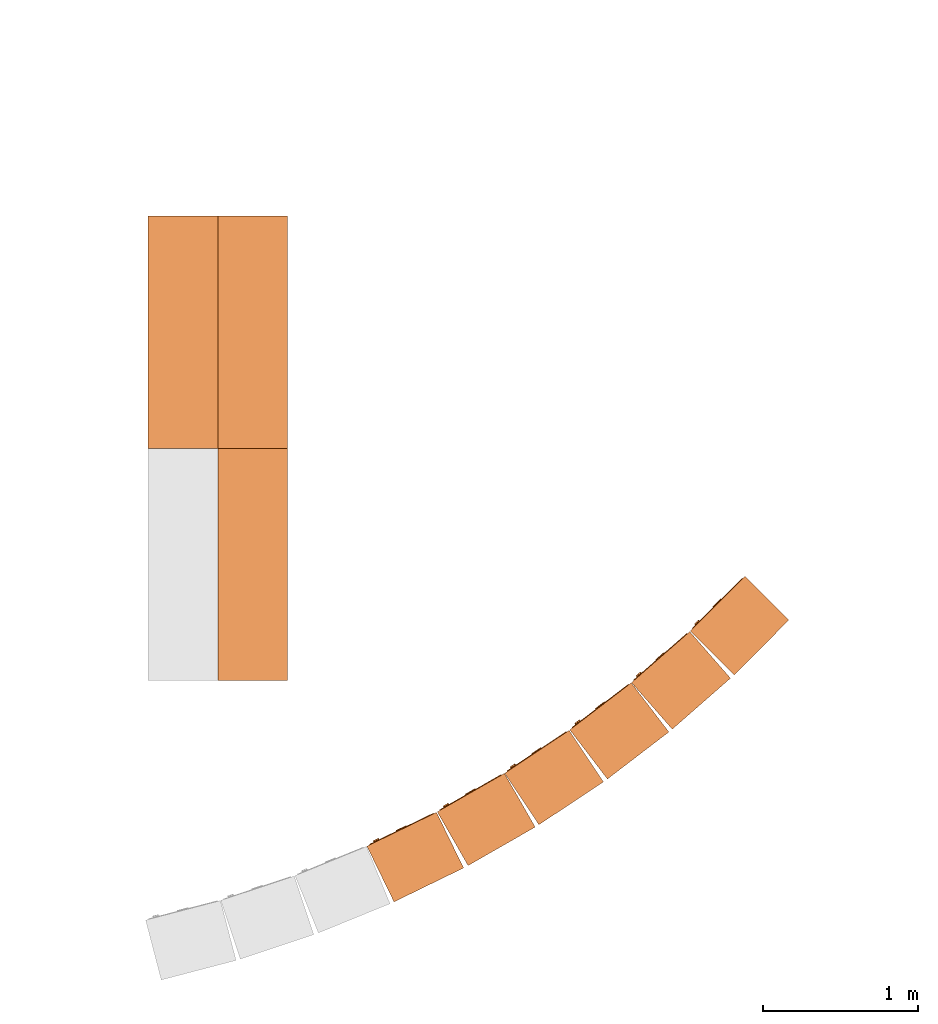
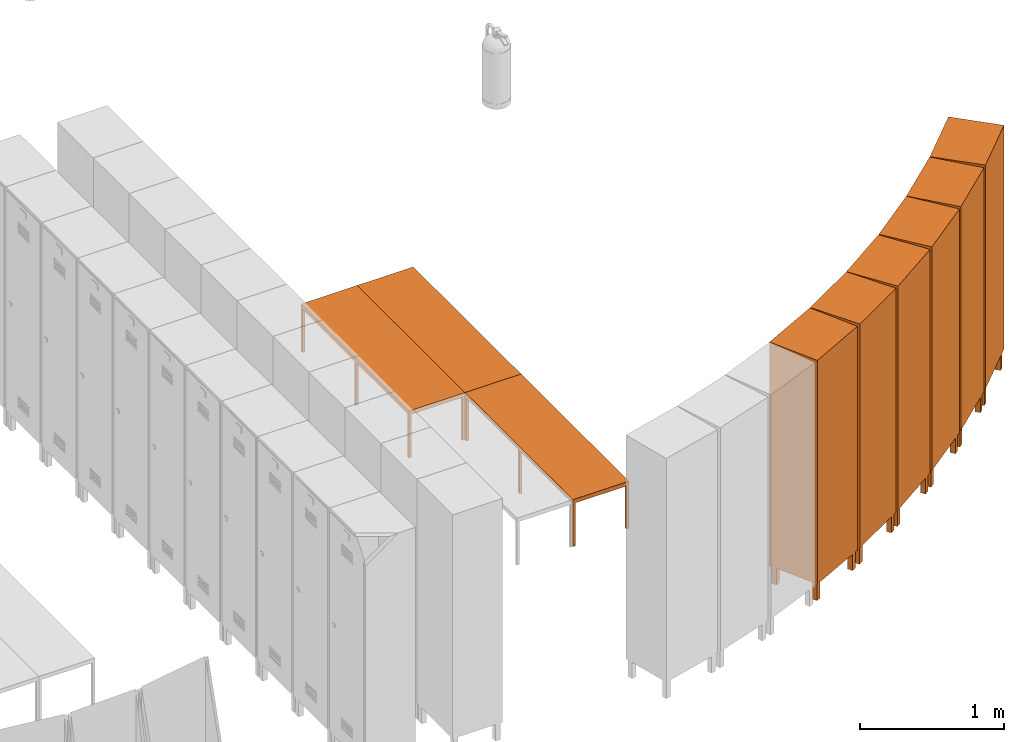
# One storey, part 6 of 7: 9 proxies.
"""IFC4 building model written with IfcOpenShell, lengths in millimetres."""

from ifc_helpers import new_model, entity, si_unit, converted_unit, derived_unit, direction, frame, origin_with_axes, place, context, subcontext, project, spatial, polygons, source, transform, mapped, type_object, element, save


model = new_model("IFC4")

# Units and contexts
model_context = context("Model", 3, precision=0.01, world=origin_with_axes(), true_north=direction((0.0, 1.0)))
body_context = subcontext(model_context, "Body", "Model", "MODEL_VIEW")
ifc_project = project(units=[si_unit("LENGTHUNIT", "METRE", prefix="MILLI"), si_unit("AREAUNIT", "SQUARE_METRE"), si_unit("VOLUMEUNIT", "CUBIC_METRE"), converted_unit("PLANEANGLEUNIT", "DEGREE", entity("IfcPlaneAngleMeasure", 0.0174532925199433), si_unit("PLANEANGLEUNIT", "RADIAN"), dimensions=[0, 0, 0, 0, 0, 0, 0]), converted_unit("TIMEUNIT", "Year", entity("IfcTimeMeasure", 31557600.0), si_unit("TIMEUNIT", "SECOND"), dimensions=[0, 0, 1, 0, 0, 0, 0]), si_unit("MASSUNIT", "GRAM", prefix="KILO"), si_unit("THERMODYNAMICTEMPERATUREUNIT", "DEGREE_CELSIUS"), si_unit("LUMINOUSINTENSITYUNIT", "LUMEN"), si_unit("ENERGYUNIT", "JOULE", prefix="MEGA"), derived_unit("THERMALCONDUCTANCEUNIT", [(si_unit("POWERUNIT", "WATT"), 1), (si_unit("LENGTHUNIT", "METRE"), -1), (si_unit("THERMODYNAMICTEMPERATUREUNIT", "KELVIN"), -1)]), derived_unit("SPECIFICHEATCAPACITYUNIT", [(si_unit("ENERGYUNIT", "JOULE"), 1), (si_unit("MASSUNIT", "GRAM", prefix="KILO"), -1), (si_unit("THERMODYNAMICTEMPERATUREUNIT", "KELVIN"), -1)]), derived_unit("MASSDENSITYUNIT", [(si_unit("MASSUNIT", "GRAM", prefix="KILO"), 1), (si_unit("VOLUMEUNIT", "CUBIC_METRE"), -1)])], contexts=[model_context])

# Site, building, storey
site_placement = place(None, origin_with_axes())
site = spatial("IfcSite", under=ifc_project, at=site_placement, Name="Exteriér", CompositionType="ELEMENT")
building_placement = place(site_placement, origin_with_axes())
building = spatial("IfcBuilding", under=site, at=building_placement, Name="Univerzitní lezecké centrum", CompositionType="ELEMENT")
storey_placement = place(building_placement, frame((0.0, 0.0, -3350.0), z_axis=(0.0, 0.0, 1.0), x_axis=(1.0, 0.0, 0.0)))
storey = spatial("IfcBuildingStorey", under=building, at=storey_placement, Name="1.PP", CompositionType="ELEMENT", Elevation=-3350.0)

# Proxies
building_element_proxy_type_1 = type_object("IfcBuildingElementProxyType", Name="Skříňky 24", PredefinedType="NOTDEFINED")
shared_shape_1 = source(origin_with_axes(), body_context, "Body", "Tessellation", [
    polygons([(-9.999999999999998, 9.999999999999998, 0.0), (-9.999999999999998, 9.999999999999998, 150.0), (-50.0, 9.999999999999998, 150.0), (-50.0, 9.999999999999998, 0.0), (-9.999999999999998, 50.0, 0.0), (-9.999999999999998, 50.0, 150.0), (-50.0, 50.0, 150.0), (-50.0, 50.0, 0.0)], [[[1, 2, 3, 4]], [[5, 6, 2, 1]], [[2, 6, 7, 3]], [[4, 3, 7, 8]], [[1, 4, 8, 5]], [[8, 7, 6, 5]]], closed=True),
    polygons([(-449.9999999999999, 9.999999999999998, 0.0), (-449.9999999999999, 9.999999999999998, 150.0), (-490.0, 9.999999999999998, 150.0), (-490.0, 9.999999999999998, 0.0), (-449.9999999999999, 50.0, 0.0), (-449.9999999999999, 50.0, 150.0), (-490.0, 50.0, 150.0), (-490.0, 50.0, 0.0)], [[[1, 2, 3, 4]], [[5, 6, 2, 1]], [[2, 6, 7, 3]], [[4, 3, 7, 8]], [[1, 4, 8, 5]], [[8, 7, 6, 5]]], closed=True),
    polygons([(-9.999999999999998, 350.0, 0.0), (-9.999999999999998, 350.0, 150.0), (-50.0, 350.0, 150.0), (-50.0, 350.0, 0.0), (-9.999999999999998, 390.0, 0.0), (-9.999999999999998, 390.0, 150.0), (-50.0, 390.0, 150.0), (-50.0, 390.0, 0.0)], [[[1, 2, 3, 4]], [[5, 6, 2, 1]], [[2, 6, 7, 3]], [[4, 3, 7, 8]], [[1, 4, 8, 5]], [[8, 7, 6, 5]]], closed=True),
    polygons([(-449.9999999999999, 350.0, 0.0), (-449.9999999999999, 350.0, 150.0), (-490.0, 350.0, 150.0), (-490.0, 350.0, 0.0), (-449.9999999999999, 390.0, 0.0), (-449.9999999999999, 390.0, 150.0), (-490.0, 390.0, 150.0), (-490.0, 390.0, 0.0)], [[[1, 2, 3, 4]], [[5, 6, 2, 1]], [[2, 6, 7, 3]], [[4, 3, 7, 8]], [[1, 4, 8, 5]], [[8, 7, 6, 5]]], closed=True),
    polygons([(0.0, 0.0, 150.0), (0.0, 380.0, 150.0), (0.0, 379.9999999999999, 2050.0), (0.0, 0.0, 2050.0), (-500.0, 0.0, 150.0), (-500.0, 380.0, 150.0), (-500.0, 379.9999999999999, 2050.0), (-20.0, 380.0, 170.0), (-20.0, 379.9999999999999, 2030.0), (-480.0, 379.9999999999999, 2030.0), (-480.0, 380.0, 170.0), (-500.0, 0.0, 2050.0), (-20.0, 0.0, 170.0), (-480.0, 0.0, 170.0), (-480.0, 0.0, 2030.0), (-20.0, 0.0, 2030.0)], [[[1, 2, 3, 4]], [[5, 6, 2, 1]], [[2, 6, 7, 3], [8, 9, 10, 11]], [[4, 3, 7, 12]], [[1, 4, 12, 5], [13, 14, 15, 16]], [[12, 7, 6, 5]], [[16, 9, 8, 13]], [[15, 10, 9, 16]], [[14, 11, 10, 15]], [[13, 8, 11, 14]]], closed=True),
    polygons([(0.0, 379.9999999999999, 2050.0), (0.0, 399.9999999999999, 2050.0), (-500.0, 399.9999999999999, 2050.0), (-500.0, 379.9999999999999, 2050.0), (0.0, 380.0, 150.0), (0.0, 400.0, 150.0), (-500.0, 400.0, 150.0), (-500.0, 380.0, 150.0)], [[[1, 2, 3, 4]], [[5, 6, 2, 1]], [[2, 6, 7, 3]], [[4, 3, 7, 8]], [[1, 4, 8, 5]], [[8, 7, 6, 5]]], closed=True),
    polygons([(-20.0, 5.0, 170.0), (-20.0, -5.0, 170.0), (-480.0000000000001, -5.0, 170.0), (-480.0000000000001, 5.0, 170.0), (-20.0, 5.000000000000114, 2030.0), (-20.0, -4.999999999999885, 2030.0), (-480.0000000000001, -4.999999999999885, 2030.0), (-175.0, -4.999999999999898, 1850.0), (-325.0000000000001, -4.999999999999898, 1850.0), (-325.0000000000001, -4.999999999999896, 1860.0), (-175.0, -4.999999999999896, 1860.0), (-175.0, -4.999999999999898, 1830.0), (-325.0000000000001, -4.999999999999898, 1830.0), (-325.0000000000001, -4.999999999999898, 1840.0), (-175.0, -4.999999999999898, 1840.0), (-175.0, -4.9999999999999, 1810.0), (-325.0000000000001, -4.9999999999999, 1810.0), (-325.0000000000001, -4.9999999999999, 1820.0), (-175.0, -4.9999999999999, 1820.0), (-175.0, -4.999999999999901, 1790.0), (-325.0000000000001, -4.999999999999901, 1790.0), (-325.0000000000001, -4.9999999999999, 1800.0), (-175.0, -4.9999999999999, 1800.0), (-175.0, -4.999999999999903, 1770.0), (-325.0000000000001, -4.999999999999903, 1770.0), (-325.0000000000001, -4.999999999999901, 1780.0), (-175.0, -4.999999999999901, 1780.0), (-175.0, -4.999999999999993, 290.0), (-325.0000000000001, -4.999999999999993, 290.0), (-325.0000000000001, -4.999999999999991, 300.0), (-175.0, -4.999999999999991, 300.0), (-175.0, -4.999999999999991, 310.0), (-325.0000000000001, -4.999999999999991, 310.0), (-325.0000000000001, -4.999999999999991, 319.9999999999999), (-175.0, -4.999999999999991, 319.9999999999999), (-175.0, -4.999999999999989, 329.9999999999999), (-325.0000000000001, -4.999999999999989, 329.9999999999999), (-325.0000000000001, -4.999999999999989, 339.9999999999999), (-175.0, -4.999999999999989, 339.9999999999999), (-175.0, -4.999999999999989, 350.0), (-325.0000000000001, -4.999999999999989, 350.0), (-325.0000000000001, -4.999999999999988, 360.0), (-175.0, -4.999999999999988, 360.0), (-175.0, -4.999999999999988, 370.0), (-325.0000000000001, -4.999999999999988, 370.0), (-325.0000000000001, -4.999999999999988, 380.0), (-175.0, -4.999999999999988, 380.0), (-480.0000000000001, 5.000000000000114, 2030.0), (-175.0, 5.000000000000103, 1850.0), (-175.0, 5.000000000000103, 1860.0), (-325.0000000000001, 5.000000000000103, 1860.0), (-325.0000000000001, 5.000000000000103, 1850.0), (-175.0, 5.000000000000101, 1830.0), (-175.0, 5.000000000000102, 1840.0), (-325.0000000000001, 5.000000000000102, 1840.0), (-325.0000000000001, 5.000000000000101, 1830.0), (-175.0, 5.0000000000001, 1810.0), (-175.0, 5.0000000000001, 1820.0), (-325.0000000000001, 5.0000000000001, 1820.0), (-325.0000000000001, 5.0000000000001, 1810.0), (-175.0, 5.000000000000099, 1790.0), (-175.0, 5.000000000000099, 1800.0), (-325.0000000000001, 5.000000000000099, 1800.0), (-325.0000000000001, 5.000000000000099, 1790.0), (-175.0, 5.000000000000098, 1770.0), (-175.0, 5.000000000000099, 1780.0), (-325.0000000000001, 5.000000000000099, 1780.0), (-325.0000000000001, 5.000000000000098, 1770.0), (-175.0, 5.000000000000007, 290.0), (-175.0, 5.000000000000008, 300.0), (-325.0000000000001, 5.000000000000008, 300.0), (-325.0000000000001, 5.000000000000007, 290.0), (-175.0, 5.000000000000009, 310.0), (-175.0, 5.00000000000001, 319.9999999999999), (-325.0000000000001, 5.00000000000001, 319.9999999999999), (-325.0000000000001, 5.000000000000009, 310.0), (-175.0, 5.00000000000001, 329.9999999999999), (-175.0, 5.000000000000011, 339.9999999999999), (-325.0000000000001, 5.000000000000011, 339.9999999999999), (-325.0000000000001, 5.00000000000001, 329.9999999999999), (-175.0, 5.000000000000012, 350.0), (-175.0, 5.000000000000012, 360.0), (-325.0000000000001, 5.000000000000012, 360.0), (-325.0000000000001, 5.000000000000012, 350.0), (-175.0, 5.000000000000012, 370.0), (-175.0, 5.000000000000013, 380.0), (-325.0000000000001, 5.000000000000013, 380.0), (-325.0000000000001, 5.000000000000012, 370.0)], [[[1, 2, 3, 4]], [[5, 6, 2, 1]], [[2, 6, 7, 3], [8, 9, 10, 11], [12, 13, 14, 15], [16, 17, 18, 19], [20, 21, 22, 23], [24, 25, 26, 27], [28, 29, 30, 31], [32, 33, 34, 35], [36, 37, 38, 39], [40, 41, 42, 43], [44, 45, 46, 47]], [[4, 3, 7, 48]], [[1, 4, 48, 5], [49, 50, 51, 52], [53, 54, 55, 56], [57, 58, 59, 60], [61, 62, 63, 64], [65, 66, 67, 68], [69, 70, 71, 72], [73, 74, 75, 76], [77, 78, 79, 80], [81, 82, 83, 84], [85, 86, 87, 88]], [[48, 7, 6, 5]], [[52, 9, 8, 49]], [[51, 10, 9, 52]], [[50, 11, 10, 51]], [[49, 8, 11, 50]], [[56, 13, 12, 53]], [[55, 14, 13, 56]], [[54, 15, 14, 55]], [[53, 12, 15, 54]], [[60, 17, 16, 57]], [[59, 18, 17, 60]], [[58, 19, 18, 59]], [[57, 16, 19, 58]], [[64, 21, 20, 61]], [[63, 22, 21, 64]], [[62, 23, 22, 63]], [[61, 20, 23, 62]], [[68, 25, 24, 65]], [[67, 26, 25, 68]], [[66, 27, 26, 67]], [[65, 24, 27, 66]], [[72, 29, 28, 69]], [[71, 30, 29, 72]], [[70, 31, 30, 71]], [[69, 28, 31, 70]], [[76, 33, 32, 73]], [[75, 34, 33, 76]], [[74, 35, 34, 75]], [[73, 32, 35, 74]], [[80, 37, 36, 77]], [[79, 38, 37, 80]], [[78, 39, 38, 79]], [[77, 36, 39, 78]], [[84, 41, 40, 81]], [[83, 42, 41, 84]], [[82, 43, 42, 83]], [[81, 40, 43, 82]], [[88, 45, 44, 85]], [[87, 46, 45, 88]], [[86, 47, 46, 87]], [[85, 44, 47, 86]]], closed=True),
    polygons([(-287.5, -10.0, 1950.0), (-287.5, -5.0, 1950.0), (-212.5, -5.0, 1950.0), (-212.5, -10.0, 1950.0), (-287.5, -10.0, 2000.0), (-287.5, -5.0, 2000.0), (-212.5, -5.0, 2000.0), (-212.5, -10.0, 2000.0)], [[[1, 2, 3, 4]], [[1, 5, 6, 2]], [[2, 6, 7, 3]], [[3, 7, 8, 4]], [[4, 8, 5, 1]], [[8, 7, 6, 5]]], closed=True),
    polygons([(-84.14213562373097, -5.000000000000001, 1085.857864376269), (-90.00000000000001, -5.0, 1100.0), (-84.14213562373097, -4.999999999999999, 1114.142135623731), (-70.0, -4.999999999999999, 1120.0), (-55.85786437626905, -4.999999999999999, 1114.142135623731), (-50.0, -5.0, 1100.0), (-55.85786437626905, -5.000000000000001, 1085.857864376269), (-70.0, -5.000000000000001, 1080.0), (-84.14213562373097, -15.0, 1085.857864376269), (-90.00000000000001, -15.0, 1100.0), (-84.14213562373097, -15.0, 1114.142135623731), (-70.0, -15.0, 1120.0), (-55.85786437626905, -15.0, 1114.142135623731), (-50.0, -15.0, 1100.0), (-55.85786437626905, -15.0, 1085.857864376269), (-70.0, -15.0, 1080.0)], [[[1, 2, 3, 4, 5, 6, 7, 8]], [[1, 9, 10, 2]], [[2, 10, 11, 3]], [[3, 11, 12, 4]], [[4, 12, 13, 5]], [[5, 13, 14, 6]], [[6, 14, 15, 7]], [[7, 15, 16, 8]], [[8, 16, 9, 1]], [[9, 16, 15, 14, 13, 12, 11, 10]]], closed=True),
])
for number, where, z_axis, x_axis, name in (
    (1, (6867.193329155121, -6484.169070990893, 0.0), (0.0, 0.0, 1.0), (-0.794285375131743, -0.6075448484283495, 0.0), "OV03"),
    (2, (6446.589386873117, -6763.90747298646, 0.0), (0.0, 0.0, 1.0), (-0.8330566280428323, -0.5531877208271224, 0.0), "OV03"),
    (3, (5556.888793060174, -7235.721071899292, 0.0), (0.0, 0.0, 1.0), (-0.8989745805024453, -0.4380008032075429, 0.0), "OV03"),
    (4, (7645.953872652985, -5846.507886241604, 0.0), (0.0, 0.0, 1.0), (-0.7065217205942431, -0.7076913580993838, 0.0), "OV03"),
    (5, (6011.323567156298, -7013.854688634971, 0.0), (0.0, 0.0, 1.0), (-0.8675097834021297, -0.4974201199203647, 0.0), "OV03"),
    (6, (7265.670480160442, -6178.970931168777, 0.0), (0.0, 0.0, 1.0), (-0.7527745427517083, -0.6582784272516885, 0.0), "OV03"),
):
    element("IfcBuildingElementProxy", number, at=place(storey_placement, frame(where, z_axis=z_axis, x_axis=x_axis)), inside=storey, type_object=building_element_proxy_type_1, Name=name, PredefinedType="NOTDEFINED", context=body_context, shape_type="MappedRepresentation", body=[
        mapped(shared_shape_1, transform((0.0, 0.0, 0.0))),
    ])
building_element_proxy_type_2 = type_object("IfcBuildingElementProxyType", Name="Lavice 24", PredefinedType="NOTDEFINED")
shared_shape_2 = source(origin_with_axes(), body_context, "Body", "Tessellation", [
    polygons([(20.0, 0.0, 0.0), (0.0, 0.0, 0.0), (0.0, 20.0, 0.0), (20.0, 20.0, 0.0), (20.0, 0.0, 385.0), (0.0, 0.0, 385.0), (0.0, 20.0, 385.0), (20.0, 20.0, 385.0)], [[[1, 2, 3, 4]], [[2, 1, 5, 6]], [[3, 2, 6, 7]], [[4, 3, 7, 8]], [[1, 4, 8, 5]], [[6, 5, 8, 7]]], closed=True),
    polygons([(20.0, 430.0, 0.0), (0.0, 430.0, 0.0), (0.0, 450.0, 0.0), (20.0, 450.0, 0.0), (20.0, 430.0, 385.0), (0.0, 430.0, 385.0), (0.0, 450.0, 385.0), (20.0, 450.0, 385.0)], [[[1, 2, 3, 4]], [[2, 1, 5, 6]], [[3, 2, 6, 7]], [[4, 3, 7, 8]], [[1, 4, 8, 5]], [[6, 5, 8, 7]]], closed=True),
    polygons([(1500.0, 0.0, 0.0), (1480.0, 0.0, 0.0), (1480.0, 20.0, 0.0), (1500.0, 20.0, 0.0), (1500.0, 0.0, 385.0), (1480.0, 0.0, 385.0), (1480.0, 20.0, 385.0), (1500.0, 20.0, 385.0)], [[[1, 2, 3, 4]], [[2, 1, 5, 6]], [[3, 2, 6, 7]], [[4, 3, 7, 8]], [[1, 4, 8, 5]], [[6, 5, 8, 7]]], closed=True),
    polygons([(1500.0, 430.0, 0.0), (1480.0, 430.0, 0.0), (1480.0, 450.0, 0.0), (1500.0, 450.0, 0.0), (1500.0, 430.0, 385.0), (1480.0, 430.0, 385.0), (1480.0, 450.0, 385.0), (1500.0, 450.0, 385.0)], [[[1, 2, 3, 4]], [[2, 1, 5, 6]], [[3, 2, 6, 7]], [[4, 3, 7, 8]], [[1, 4, 8, 5]], [[6, 5, 8, 7]]], closed=True),
    polygons([(760.0, 0.0, 0.0), (740.0, 0.0, 0.0), (740.0, 20.0, 0.0), (760.0, 20.0, 0.0), (760.0, 0.0, 385.0), (740.0, 0.0, 385.0), (740.0, 20.0, 385.0), (760.0, 20.0, 385.0)], [[[1, 2, 3, 4]], [[2, 1, 5, 6]], [[3, 2, 6, 7]], [[4, 3, 7, 8]], [[1, 4, 8, 5]], [[6, 5, 8, 7]]], closed=True),
    polygons([(760.0, 430.0, 0.0), (740.0, 430.0, 0.0), (740.0, 450.0, 0.0), (760.0, 450.0, 0.0), (760.0, 430.0, 385.0), (740.0, 430.0, 385.0), (740.0, 450.0, 385.0), (760.0, 450.0, 385.0)], [[[1, 2, 3, 4]], [[2, 1, 5, 6]], [[3, 2, 6, 7]], [[4, 3, 7, 8]], [[1, 4, 8, 5]], [[6, 5, 8, 7]]], closed=True),
    polygons([(740.0, 0.0, 365.0000000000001), (20.0, 0.0, 365.0000000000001), (20.0, 20.0, 365.0000000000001), (740.0, 20.0, 365.0000000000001), (740.0, 0.0, 385.0000000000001), (20.0, 0.0, 385.0000000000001), (20.0, 20.0, 385.0000000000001), (740.0, 20.0, 385.0000000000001)], [[[1, 2, 3, 4]], [[2, 1, 5, 6]], [[3, 2, 6, 7]], [[4, 3, 7, 8]], [[1, 4, 8, 5]], [[6, 5, 8, 7]]], closed=True),
    polygons([(1480.0, 0.0, 365.0000000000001), (760.0, 0.0, 365.0000000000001), (760.0, 20.0, 365.0000000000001), (1480.0, 20.0, 365.0000000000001), (1480.0, 0.0, 385.0000000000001), (760.0, 0.0, 385.0000000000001), (760.0, 20.0, 385.0000000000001), (1480.0, 20.0, 385.0000000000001)], [[[1, 2, 3, 4]], [[2, 1, 5, 6]], [[3, 2, 6, 7]], [[4, 3, 7, 8]], [[1, 4, 8, 5]], [[6, 5, 8, 7]]], closed=True),
    polygons([(740.0, 430.0, 365.0000000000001), (20.0, 430.0, 365.0000000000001), (20.0, 450.0, 365.0000000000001), (740.0, 450.0, 365.0000000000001), (740.0, 430.0, 385.0000000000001), (20.0, 430.0, 385.0000000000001), (20.0, 450.0, 385.0000000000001), (740.0, 450.0, 385.0000000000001)], [[[1, 2, 3, 4]], [[2, 1, 5, 6]], [[3, 2, 6, 7]], [[4, 3, 7, 8]], [[1, 4, 8, 5]], [[6, 5, 8, 7]]], closed=True),
    polygons([(1480.0, 430.0, 365.0000000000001), (760.0, 430.0, 365.0000000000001), (760.0, 450.0, 365.0000000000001), (1480.0, 450.0, 365.0000000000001), (1480.0, 430.0, 385.0000000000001), (760.0, 430.0, 385.0000000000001), (760.0, 450.0, 385.0000000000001), (1480.0, 450.0, 385.0000000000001)], [[[1, 2, 3, 4]], [[2, 1, 5, 6]], [[3, 2, 6, 7]], [[4, 3, 7, 8]], [[1, 4, 8, 5]], [[6, 5, 8, 7]]], closed=True),
    polygons([(20.0, 20.0, 365.0000000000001), (0.0, 20.0, 365.0000000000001), (0.0, 430.0000000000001, 365.0000000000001), (20.0, 430.0000000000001, 365.0000000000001), (20.0, 20.0, 385.0000000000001), (0.0, 20.0, 385.0000000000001), (0.0, 430.0000000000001, 385.0000000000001), (20.0, 430.0000000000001, 385.0000000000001)], [[[1, 2, 3, 4]], [[2, 1, 5, 6]], [[3, 2, 6, 7]], [[4, 3, 7, 8]], [[1, 4, 8, 5]], [[6, 5, 8, 7]]], closed=True),
    polygons([(760.0, 20.0, 365.0000000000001), (740.0, 20.0, 365.0000000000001), (740.0, 430.0000000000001, 365.0000000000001), (760.0, 430.0000000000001, 365.0000000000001), (760.0, 20.0, 385.0000000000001), (740.0, 20.0, 385.0000000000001), (740.0, 430.0000000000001, 385.0000000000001), (760.0, 430.0000000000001, 385.0000000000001)], [[[1, 2, 3, 4]], [[2, 1, 5, 6]], [[3, 2, 6, 7]], [[4, 3, 7, 8]], [[1, 4, 8, 5]], [[6, 5, 8, 7]]], closed=True),
    polygons([(1500.0, 20.0, 365.0000000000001), (1480.0, 20.0, 365.0000000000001), (1480.0, 430.0000000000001, 365.0000000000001), (1500.0, 430.0000000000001, 365.0000000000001), (1500.0, 20.0, 385.0000000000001), (1480.0, 20.0, 385.0000000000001), (1480.0, 430.0000000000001, 385.0000000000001), (1500.0, 430.0000000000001, 385.0000000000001)], [[[1, 2, 3, 4]], [[2, 1, 5, 6]], [[3, 2, 6, 7]], [[4, 3, 7, 8]], [[1, 4, 8, 5]], [[6, 5, 8, 7]]], closed=True),
    polygons([(0.0, 0.0, 385.0), (1500.0, 0.0, 385.0), (1500.0, 0.0, 400.0), (0.0, 0.0, 400.0), (0.0, 450.0, 385.0), (1500.0, 450.0, 385.0), (1500.0, 450.0, 400.0), (0.0, 450.0, 400.0)], [[[1, 2, 3, 4]], [[1, 5, 6, 2]], [[2, 6, 7, 3]], [[4, 3, 7, 8]], [[5, 1, 4, 8]], [[6, 5, 8, 7]]], closed=True),
])
for number, where, z_axis, x_axis, name in (
    (7, (4594.078167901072, -3166.618359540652, 0.0), (0.0, 0.0, 1.0), (0.0, -1.0, 0.0), "OV04"),
    (8, (4594.078167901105, -4666.618359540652, 0.0), (0.0, 0.0, 1.0), (0.0, -1.0, 0.0), "OV04"),
):
    element("IfcBuildingElementProxy", number, at=place(storey_placement, frame(where, z_axis=z_axis, x_axis=x_axis)), inside=storey, type_object=building_element_proxy_type_2, Name=name, PredefinedType="NOTDEFINED", context=body_context, shape_type="MappedRepresentation", body=[
        mapped(shared_shape_2, transform((0.0, 0.0, 0.0))),
    ])
shared_shape_3 = source(origin_with_axes(), body_context, "Body", "Tessellation", [
    polygons([(-20.0, 0.0, 0.0), (-20.0, 20.0, 0.0), (0.0, 20.0, 0.0), (0.0, 0.0, 0.0), (-20.0, 0.0, 385.0), (-20.0, 20.0, 385.0), (0.0, 20.0, 385.0), (0.0, 0.0, 385.0)], [[[1, 2, 3, 4]], [[1, 5, 6, 2]], [[2, 6, 7, 3]], [[3, 7, 8, 4]], [[4, 8, 5, 1]], [[8, 7, 6, 5]]], closed=True),
    polygons([(-20.0, 430.0, 0.0), (-20.0, 450.0, 0.0), (0.0, 450.0, 0.0), (0.0, 430.0, 0.0), (-20.0, 430.0, 385.0), (-20.0, 450.0, 385.0), (0.0, 450.0, 385.0), (0.0, 430.0, 385.0)], [[[1, 2, 3, 4]], [[1, 5, 6, 2]], [[2, 6, 7, 3]], [[3, 7, 8, 4]], [[4, 8, 5, 1]], [[8, 7, 6, 5]]], closed=True),
    polygons([(-1500.0, 0.0, 0.0), (-1500.0, 20.0, 0.0), (-1480.0, 20.0, 0.0), (-1480.0, 0.0, 0.0), (-1500.0, 0.0, 385.0), (-1500.0, 20.0, 385.0), (-1480.0, 20.0, 385.0), (-1480.0, 0.0, 385.0)], [[[1, 2, 3, 4]], [[1, 5, 6, 2]], [[2, 6, 7, 3]], [[3, 7, 8, 4]], [[4, 8, 5, 1]], [[8, 7, 6, 5]]], closed=True),
    polygons([(-1500.0, 430.0, 0.0), (-1500.0, 450.0, 0.0), (-1480.0, 450.0, 0.0), (-1480.0, 430.0, 0.0), (-1500.0, 430.0, 385.0), (-1500.0, 450.0, 385.0), (-1480.0, 450.0, 385.0), (-1480.0, 430.0, 385.0)], [[[1, 2, 3, 4]], [[1, 5, 6, 2]], [[2, 6, 7, 3]], [[3, 7, 8, 4]], [[4, 8, 5, 1]], [[8, 7, 6, 5]]], closed=True),
    polygons([(-760.0, 0.0, 0.0), (-760.0, 20.0, 0.0), (-740.0, 20.0, 0.0), (-740.0, 0.0, 0.0), (-760.0, 0.0, 385.0), (-760.0, 20.0, 385.0), (-740.0, 20.0, 385.0), (-740.0, 0.0, 385.0)], [[[1, 2, 3, 4]], [[1, 5, 6, 2]], [[2, 6, 7, 3]], [[3, 7, 8, 4]], [[4, 8, 5, 1]], [[8, 7, 6, 5]]], closed=True),
    polygons([(-760.0, 430.0, 0.0), (-760.0, 450.0, 0.0), (-740.0, 450.0, 0.0), (-740.0, 430.0, 0.0), (-760.0, 430.0, 385.0), (-760.0, 450.0, 385.0), (-740.0, 450.0, 385.0), (-740.0, 430.0, 385.0)], [[[1, 2, 3, 4]], [[1, 5, 6, 2]], [[2, 6, 7, 3]], [[3, 7, 8, 4]], [[4, 8, 5, 1]], [[8, 7, 6, 5]]], closed=True),
    polygons([(-740.0, 0.0, 365.0000000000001), (-740.0, 20.0, 365.0000000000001), (-20.0, 20.0, 365.0000000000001), (-20.0, 0.0, 365.0000000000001), (-740.0, 0.0, 385.0000000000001), (-740.0, 20.0, 385.0000000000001), (-20.0, 20.0, 385.0000000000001), (-20.0, 0.0, 385.0000000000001)], [[[1, 2, 3, 4]], [[1, 5, 6, 2]], [[2, 6, 7, 3]], [[3, 7, 8, 4]], [[4, 8, 5, 1]], [[8, 7, 6, 5]]], closed=True),
    polygons([(-1480.0, 0.0, 365.0000000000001), (-1480.0, 20.0, 365.0000000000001), (-760.0, 20.0, 365.0000000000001), (-760.0, 0.0, 365.0000000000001), (-1480.0, 0.0, 385.0000000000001), (-1480.0, 20.0, 385.0000000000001), (-760.0, 20.0, 385.0000000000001), (-760.0, 0.0, 385.0000000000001)], [[[1, 2, 3, 4]], [[1, 5, 6, 2]], [[2, 6, 7, 3]], [[3, 7, 8, 4]], [[4, 8, 5, 1]], [[8, 7, 6, 5]]], closed=True),
    polygons([(-740.0, 430.0, 365.0000000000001), (-740.0, 450.0, 365.0000000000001), (-20.0, 450.0, 365.0000000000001), (-20.0, 430.0, 365.0000000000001), (-740.0, 430.0, 385.0000000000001), (-740.0, 450.0, 385.0000000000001), (-20.0, 450.0, 385.0000000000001), (-20.0, 430.0, 385.0000000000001)], [[[1, 2, 3, 4]], [[1, 5, 6, 2]], [[2, 6, 7, 3]], [[3, 7, 8, 4]], [[4, 8, 5, 1]], [[8, 7, 6, 5]]], closed=True),
    polygons([(-1480.0, 430.0, 365.0000000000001), (-1480.0, 450.0, 365.0000000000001), (-760.0, 450.0, 365.0000000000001), (-760.0, 430.0, 365.0000000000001), (-1480.0, 430.0, 385.0000000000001), (-1480.0, 450.0, 385.0000000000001), (-760.0, 450.0, 385.0000000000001), (-760.0, 430.0, 385.0000000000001)], [[[1, 2, 3, 4]], [[1, 5, 6, 2]], [[2, 6, 7, 3]], [[3, 7, 8, 4]], [[4, 8, 5, 1]], [[8, 7, 6, 5]]], closed=True),
    polygons([(-20.0, 20.0, 365.0000000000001), (-20.0, 430.0000000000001, 365.0000000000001), (0.0, 430.0000000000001, 365.0000000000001), (0.0, 20.0, 365.0000000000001), (-20.0, 20.0, 385.0000000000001), (-20.0, 430.0000000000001, 385.0000000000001), (0.0, 430.0000000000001, 385.0000000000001), (0.0, 20.0, 385.0000000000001)], [[[1, 2, 3, 4]], [[1, 5, 6, 2]], [[2, 6, 7, 3]], [[3, 7, 8, 4]], [[4, 8, 5, 1]], [[8, 7, 6, 5]]], closed=True),
    polygons([(-760.0, 20.0, 365.0000000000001), (-760.0, 430.0000000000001, 365.0000000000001), (-740.0, 430.0000000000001, 365.0000000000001), (-740.0, 20.0, 365.0000000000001), (-760.0, 20.0, 385.0000000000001), (-760.0, 430.0000000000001, 385.0000000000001), (-740.0, 430.0000000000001, 385.0000000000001), (-740.0, 20.0, 385.0000000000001)], [[[1, 2, 3, 4]], [[1, 5, 6, 2]], [[2, 6, 7, 3]], [[3, 7, 8, 4]], [[4, 8, 5, 1]], [[8, 7, 6, 5]]], closed=True),
    polygons([(-1500.0, 20.0, 365.0000000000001), (-1500.0, 430.0000000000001, 365.0000000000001), (-1480.0, 430.0000000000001, 365.0000000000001), (-1480.0, 20.0, 365.0000000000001), (-1500.0, 20.0, 385.0000000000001), (-1500.0, 430.0000000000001, 385.0000000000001), (-1480.0, 430.0000000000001, 385.0000000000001), (-1480.0, 20.0, 385.0000000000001)], [[[1, 2, 3, 4]], [[1, 5, 6, 2]], [[2, 6, 7, 3]], [[3, 7, 8, 4]], [[4, 8, 5, 1]], [[8, 7, 6, 5]]], closed=True),
    polygons([(0.0, 0.0, 385.0), (0.0, 0.0, 400.0), (-1500.0, 0.0, 400.0), (-1500.0, 0.0, 385.0), (0.0, 450.0, 385.0), (0.0, 450.0, 400.0), (-1500.0, 450.0, 400.0), (-1500.0, 450.0, 385.0)], [[[1, 2, 3, 4]], [[5, 6, 2, 1]], [[2, 6, 7, 3]], [[4, 3, 7, 8]], [[1, 4, 8, 5]], [[8, 7, 6, 5]]], closed=True),
])
proxy_placement = place(storey_placement, frame((4594.078167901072, -3166.618359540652, 0.0), z_axis=(0.0, 0.0, 1.0), x_axis=(0.0, 1.0, 0.0)))
element("IfcBuildingElementProxy", 9, at=proxy_placement, inside=storey, type_object=building_element_proxy_type_2, Name="OV04", PredefinedType="NOTDEFINED", context=body_context, shape_type="MappedRepresentation", body=[
    mapped(shared_shape_3, transform((0.0, 0.0, 0.0))),
])

save(model, "model.ifc")
